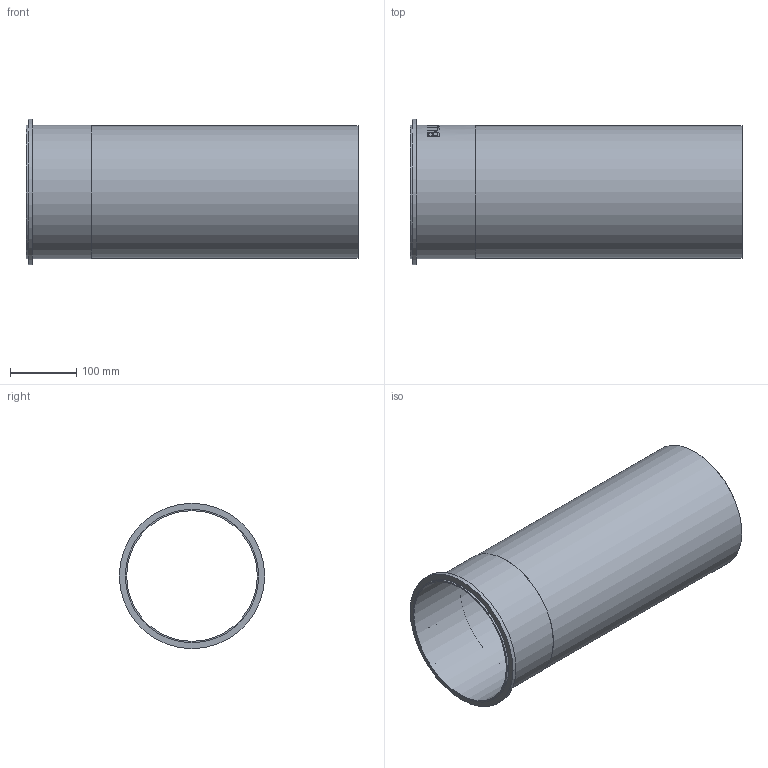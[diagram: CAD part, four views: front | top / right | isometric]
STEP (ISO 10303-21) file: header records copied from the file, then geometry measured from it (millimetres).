
FILE_DESCRIPTION((''),'2;1');
FILE_NAME('I:\WATTS\3D_CAD\3D_CAD_Models\Blucher_Drains\P_StraightPipe\WebsiteFiles\3D\STEP\P8-1.6-316.stp','2009-12-03T08:59:56',('menesek'),(''),'Autodesk Inventor 2010','Autodesk Inventor 2010','');
FILE_SCHEMA(('AUTOMOTIVE_DESIGN { 1 0 10303 214 1 1 1 1 }'));
Length unit declared in the file: inch
Products named in the file (1): P8-1.6-316
Bounding box: 500 x 218.95 x 218.95 mm (x, y, z)
Volume: 543977.4 mm3; surface area: 638485.3 mm2
Topology: 1 solids, 1 shells, 109 faces, 285 edges, 190 vertices
Faces by surface type: plane 59, bspline 34, cylinder 16
Full cylindrical faces by diameter (mm): 196.85 x1, 199.898 x1, 200.914 x2, 218.948 x1
Entity records: 14215 total; most frequent: CARTESIAN_POINT 11837, ORIENTED_EDGE 548, DIRECTION 356, EDGE_CURVE 274, VERTEX_POINT 186, EDGE_LOOP 128, AXIS2_PLACEMENT_3D 120, VECTOR 116
